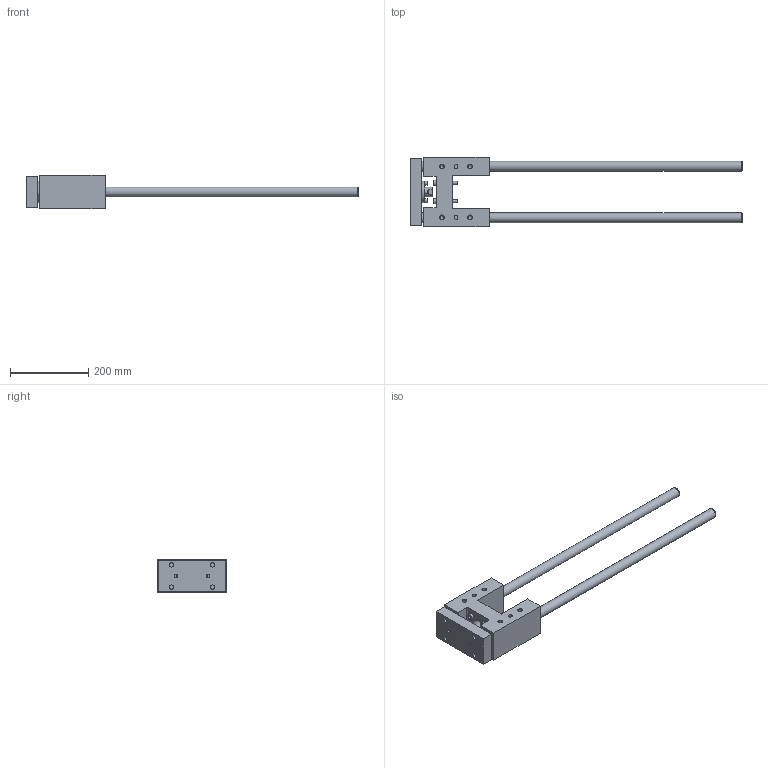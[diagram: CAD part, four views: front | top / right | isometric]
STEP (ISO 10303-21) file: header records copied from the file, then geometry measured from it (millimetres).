
FILE_DESCRIPTION( ( 'STEP AP214' ), '1' );
FILE_NAME( 'U:/Etudes/Top Solid/BIBLIO 3D AVM/TOP/PNEUMATIQUE/GUIDAGES/Type 32 (en H)/R_Renforcée/326R9_30.step', '2005-05-27T09:03:49', ( ' ' ), ( ' ' ), 'XStep 1.0', ' ', ' ' );
FILE_SCHEMA( ( 'automotive_design' ) );
Length unit declared in the file: metre
Products named in the file (2): 1; 2
Bounding box: 851 x 178 x 85 mm (x, y, z)
Volume: 2617167.9 mm3; surface area: 349045 mm2
Topology: 2 solids, 7 shells, 209 faces, 484 edges, 321 vertices
Faces by surface type: plane 118, cylinder 70, cone 21
Full cylindrical faces by diameter (mm): 6 x8, 6.5 x4, 8 x10, 8.376 x4, 9 x4, 10 x6, 10.106 x8, 11 x4, 13 x4, 14.376 x2, 18 x4, 24 x1, 25 x4, 26 x1, 34 x1, 37 x1, 40 x1, 55 x1
Entity records: 7089 total; most frequent: CARTESIAN_POINT 1103, DIRECTION 900, ORIENTED_EDGE 696, EDGE_LOOP 358, AXIS2_PLACEMENT_3D 349, EDGE_CURVE 348, VERTEX_POINT 280, FACE_OUTER_BOUND 277
